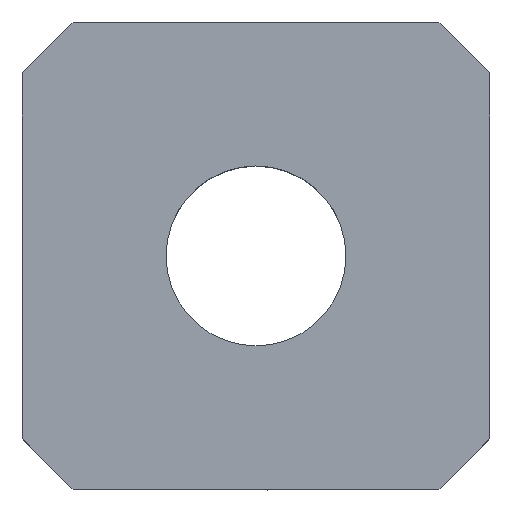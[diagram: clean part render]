
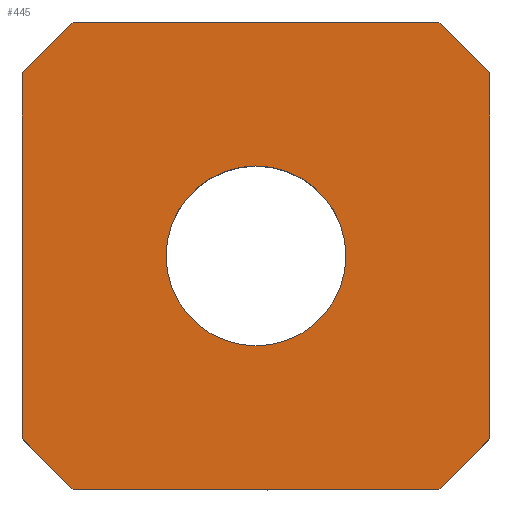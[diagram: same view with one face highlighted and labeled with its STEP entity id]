
A CAD part, top view. The second image highlights one B-rep face of the part: STEP entity #445.
In plain terms, the highlighted planar face has unit normal (0, 0, 1).
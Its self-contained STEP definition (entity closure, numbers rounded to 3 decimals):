
#213=CARTESIAN_POINT('',(5.086,-6.5,0.0));
#214=VERTEX_POINT('',#213);
#221=CARTESIAN_POINT('',(-5.086,-6.5,0.0));
#222=VERTEX_POINT('',#221);
#223=CARTESIAN_POINT('',(5.086,-6.5,0.0));
#224=DIRECTION('',(-1.0,0.0,0.0));
#225=VECTOR('',#224,10.172);
#226=LINE('',#223,#225);
#227=EDGE_CURVE('',#214,#222,#226,.T.);
#244=CARTESIAN_POINT('',(6.5,-5.086,0.0));
#245=VERTEX_POINT('',#244);
#252=CARTESIAN_POINT('',(6.5,-5.086,0.0));
#253=DIRECTION('',(-0.707,-0.707,0.0));
#254=VECTOR('',#253,2.);
#255=LINE('',#252,#254);
#256=EDGE_CURVE('',#245,#214,#255,.T.);
#268=CARTESIAN_POINT('',(6.5,5.086,0.0));
#269=VERTEX_POINT('',#268);
#276=CARTESIAN_POINT('',(6.5,5.086,0.0));
#277=DIRECTION('',(0.0,-1.0,0.0));
#278=VECTOR('',#277,10.172);
#279=LINE('',#276,#278);
#280=EDGE_CURVE('',#269,#245,#279,.T.);
#292=CARTESIAN_POINT('',(5.086,6.5,0.0));
#293=VERTEX_POINT('',#292);
#300=CARTESIAN_POINT('',(5.086,6.5,0.0));
#301=DIRECTION('',(0.707,-0.707,0.0));
#302=VECTOR('',#301,2.);
#303=LINE('',#300,#302);
#304=EDGE_CURVE('',#293,#269,#303,.T.);
#326=CARTESIAN_POINT('',(2.5,0.,0.0));
#327=VERTEX_POINT('',#326);
#328=CARTESIAN_POINT('',(0.0,0.0,0.0));
#329=DIRECTION('',(0.0,0.0,-1.0));
#330=DIRECTION('',(-1.0,0.0,0.0));
#331=AXIS2_PLACEMENT_3D('',#328,#329,#330);
#332=CIRCLE('',#331,2.5);
#333=EDGE_CURVE('',#327,#327,#332,.T.);
#344=CARTESIAN_POINT('',(-5.086,6.5,0.0));
#345=VERTEX_POINT('',#344);
#352=CARTESIAN_POINT('',(-5.086,6.5,0.0));
#353=DIRECTION('',(1.0,0.0,0.0));
#354=VECTOR('',#353,10.172);
#355=LINE('',#352,#354);
#356=EDGE_CURVE('',#345,#293,#355,.T.);
#368=CARTESIAN_POINT('',(-6.5,5.086,0.0));
#369=VERTEX_POINT('',#368);
#376=CARTESIAN_POINT('',(-6.5,5.086,0.0));
#377=DIRECTION('',(0.707,0.707,0.0));
#378=VECTOR('',#377,2.);
#379=LINE('',#376,#378);
#380=EDGE_CURVE('',#369,#345,#379,.T.);
#392=CARTESIAN_POINT('',(-6.5,-5.086,0.0));
#393=VERTEX_POINT('',#392);
#400=CARTESIAN_POINT('',(-6.5,-5.086,0.0));
#401=DIRECTION('',(0.0,1.0,0.0));
#402=VECTOR('',#401,10.172);
#403=LINE('',#400,#402);
#404=EDGE_CURVE('',#393,#369,#403,.T.);
#417=CARTESIAN_POINT('',(-5.086,-6.5,0.0));
#418=DIRECTION('',(-0.707,0.707,0.0));
#419=VECTOR('',#418,2.);
#420=LINE('',#417,#419);
#421=EDGE_CURVE('',#222,#393,#420,.T.);
#427=CARTESIAN_POINT('',(0.,0.,0.0));
#428=DIRECTION('',(0.0,0.0,1.0));
#429=DIRECTION('',(1.0,0.0,0.0));
#430=AXIS2_PLACEMENT_3D('',#427,#428,#429);
#431=PLANE('',#430);
#432=ORIENTED_EDGE('',*,*,#304,.F.);
#433=ORIENTED_EDGE('',*,*,#356,.F.);
#434=ORIENTED_EDGE('',*,*,#380,.F.);
#435=ORIENTED_EDGE('',*,*,#404,.F.);
#436=ORIENTED_EDGE('',*,*,#421,.F.);
#437=ORIENTED_EDGE('',*,*,#227,.F.);
#438=ORIENTED_EDGE('',*,*,#256,.F.);
#439=ORIENTED_EDGE('',*,*,#280,.F.);
#440=EDGE_LOOP('',(#432,#433,#434,#435,#436,#437,#438,#439));
#441=FACE_OUTER_BOUND('',#440,.T.);
#442=ORIENTED_EDGE('',*,*,#333,.T.);
#443=EDGE_LOOP('',(#442));
#444=FACE_BOUND('',#443,.T.);
#445=ADVANCED_FACE('',(#441,#444),#431,.T.);
